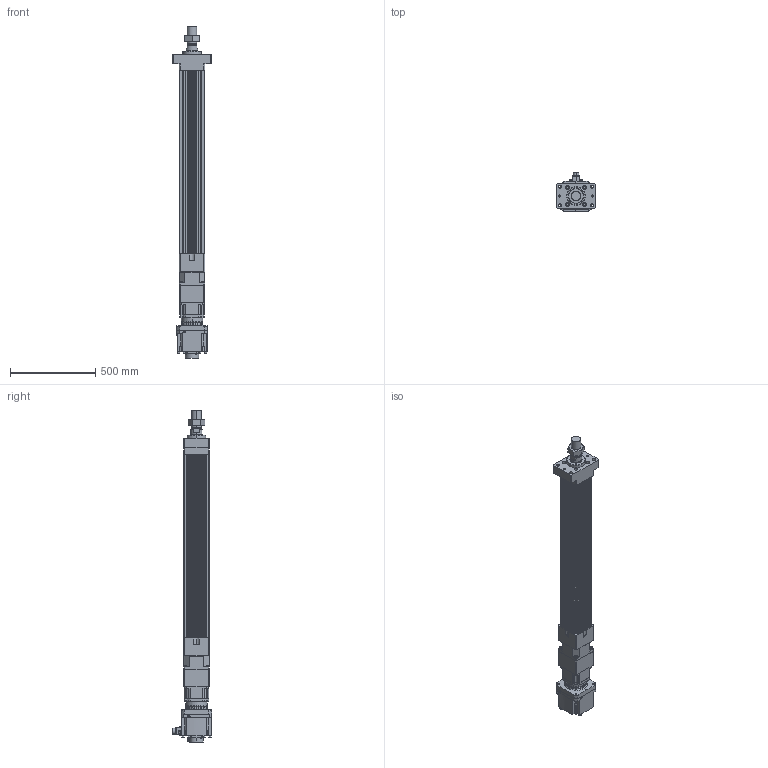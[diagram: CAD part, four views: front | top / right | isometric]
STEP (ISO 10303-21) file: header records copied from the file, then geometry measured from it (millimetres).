
FILE_DESCRIPTION (( 'STEP AP203' ), '1' );
FILE_NAME ('HES150NS(HS)-S800-W035G00-M-FM.STEP', '2023-02-01T04:55:04', ( 'tms' ), ( '' ), 'SwSTEP 2.0', 'SolidWorks 2013', '' );
FILE_SCHEMA (( 'CONFIG_CONTROL_DESIGN' ));
Length unit declared in the file: millimetre
Products named in the file (9): P1301500001; HES150NS(HS)-S800-W035G00-M-FM; P0403500801; M56X2.0P; AB142-003[HG-SR352]; AB1421; HG-SR352; HES150-S800-G142-FM; HES150 ROD M ST800
Assembly tree (8 placements, depth 3):
  HES150NS(HS)-S800-W035G00-M-FM
    HES150-S800-G142-FM
    HES150 ROD M ST800
    M56X2.0P
    AB142-003[HG-SR352]
      AB1421
      P1301500001
      P0403500801
    HG-SR352
Bounding box: 230 x 228.85 x 1947.5 mm (x, y, z)
Volume: 22028521.3 mm3; surface area: 2458850.1 mm2
Topology: 5 solids, 23 shells, 1508 faces, 3908 edges, 2538 vertices
Faces by surface type: cylinder 687, plane 587, cone 152, bspline 76, torus 6
Entity records: 55082 total; most frequent: CARTESIAN_POINT 16753, DIRECTION 8014, ORIENTED_EDGE 7718, EDGE_CURVE 3881, AXIS2_PLACEMENT_3D 3024, VERTEX_POINT 2538, VECTOR 1966, LINE 1966
